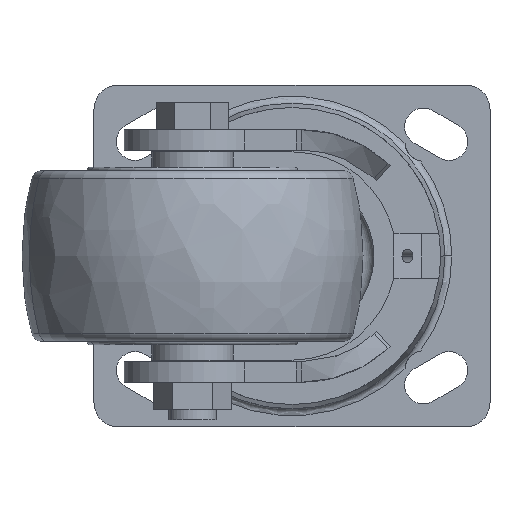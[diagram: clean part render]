
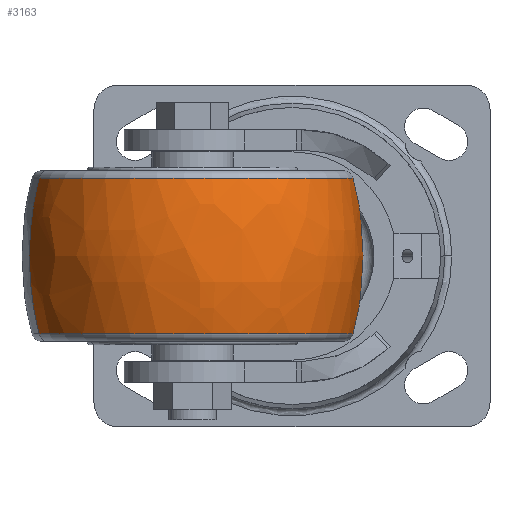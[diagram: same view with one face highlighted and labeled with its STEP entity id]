
A CAD part, front view. The second image highlights one B-rep face of the part: STEP entity #3163.
In plain terms, the highlighted free-form (B-spline) face has degree [3, 3] with [7, 4] control points.
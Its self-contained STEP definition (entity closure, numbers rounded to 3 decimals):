
#2495=CARTESIAN_POINT('',(0.,0.,-22.759));
#2496=DIRECTION('',(0.,0.,-1.));
#2497=DIRECTION('',(1.,0.,0.));
#2498=AXIS2_PLACEMENT_3D('',#2495,#2496,#2497);
#2500=CARTESIAN_POINT('',(40.,0.,0.));
#2501=DIRECTION('',(0.,-1.,0.));
#2502=DIRECTION('',(-0.967,0.,0.253));
#2503=AXIS2_PLACEMENT_3D('',#2500,#2501,#2502);
#2505=CARTESIAN_POINT('',(0.,0.,22.759));
#2506=DIRECTION('',(0.,0.,-1.));
#2507=DIRECTION('',(1.,0.,0.));
#2508=AXIS2_PLACEMENT_3D('',#2505,#2506,#2507);
#2510=CARTESIAN_POINT('',(40.,0.,0.));
#2511=DIRECTION('',(0.,-1.,0.));
#2512=DIRECTION('',(-1.,0.,0.));
#2513=AXIS2_PLACEMENT_3D('',#2510,#2511,#2512);
#2515=CARTESIAN_POINT('',(-40.,0.,0.));
#2516=DIRECTION('',(0.,1.,0.));
#2517=DIRECTION('',(1.,0.,0.));
#2518=AXIS2_PLACEMENT_3D('',#2515,#2516,#2517);
#2520=CARTESIAN_POINT('',(-40.,0.,0.));
#2521=DIRECTION('',(0.,1.,0.));
#2522=DIRECTION('',(0.967,0.,0.253));
#2523=AXIS2_PLACEMENT_3D('',#2520,#2521,#2522);
#2607=CARTESIAN_POINT('',(-47.075,0.,22.759));
#2608=CARTESIAN_POINT('',(47.075,0.,22.759));
#2609=VERTEX_POINT('',#2607);
#2610=VERTEX_POINT('',#2608);
#2615=CARTESIAN_POINT('',(-50.,0.,0.));
#2616=CARTESIAN_POINT('',(-47.075,0.,-22.759));
#2617=VERTEX_POINT('',#2615);
#2618=VERTEX_POINT('',#2616);
#2659=CARTESIAN_POINT('',(50.,0.,0.));
#2660=CARTESIAN_POINT('',(47.075,0.,-22.759));
#2661=VERTEX_POINT('',#2659);
#2662=VERTEX_POINT('',#2660);
#3121=CARTESIAN_POINT('',(-46.745,2.941,
-23.648));
#3122=CARTESIAN_POINT('',(-50.979,3.207,
-8.072));
#3123=CARTESIAN_POINT('',(-50.979,3.207,8.072));
#3124=CARTESIAN_POINT('',(-46.745,2.941,23.648));
#3125=CARTESIAN_POINT('',(-48.555,-25.826,
-23.648));
#3126=CARTESIAN_POINT('',(-52.952,-28.165,
-8.072));
#3127=CARTESIAN_POINT('',(-52.952,-28.165,
8.072));
#3128=CARTESIAN_POINT('',(-48.555,-25.826,
23.648));
#3129=CARTESIAN_POINT('',(-28.824,-46.838,
-23.648));
#3130=CARTESIAN_POINT('',(-31.434,-51.079,
-8.072));
#3131=CARTESIAN_POINT('',(-31.434,-51.079,
8.072));
#3132=CARTESIAN_POINT('',(-28.824,-46.838,
23.648));
#3133=CARTESIAN_POINT('',(0.,-46.838,
-23.648));
#3134=CARTESIAN_POINT('',(0.,-51.079,
-8.072));
#3135=CARTESIAN_POINT('',(0.,-51.079,
8.072));
#3136=CARTESIAN_POINT('',(0.,-46.838,
23.648));
#3137=CARTESIAN_POINT('',(28.824,-46.838,
-23.648));
#3138=CARTESIAN_POINT('',(31.434,-51.079,
-8.072));
#3139=CARTESIAN_POINT('',(31.434,-51.079,8.072));
#3140=CARTESIAN_POINT('',(28.824,-46.838,23.648));
#3141=CARTESIAN_POINT('',(48.555,-25.826,
-23.648));
#3142=CARTESIAN_POINT('',(52.952,-28.165,
-8.072));
#3143=CARTESIAN_POINT('',(52.952,-28.165,8.072));
#3144=CARTESIAN_POINT('',(48.555,-25.826,23.648));
#3145=CARTESIAN_POINT('',(46.745,2.941,-23.648));
#3146=CARTESIAN_POINT('',(50.979,3.207,-8.072));
#3147=CARTESIAN_POINT('',(50.979,3.207,8.072));
#3148=CARTESIAN_POINT('',(46.745,2.941,23.648));
#3149=(BOUNDED_SURFACE()B_SPLINE_SURFACE(3,3,((#3121,#3122,#3123,#3124),(#3125,
#3126,#3127,#3128),(#3129,#3130,#3131,#3132),(#3133,#3134,#3135,#3136),(#3137,
#3138,#3139,#3140),(#3141,#3142,#3143,#3144),(#3145,#3146,#3147,#3148)),
.UNSPECIFIED.,.F.,.F.,.F.)B_SPLINE_SURFACE_WITH_KNOTS((4,3,4),(4,4),(0.,1.,
2.),(0.,1.),.UNSPECIFIED.)GEOMETRIC_REPRESENTATION_ITEM()RATIONAL_B_SPLINE_SURFACE(((1.208,1.18,1.18,1.208),(
0.954,0.932,0.932,0.954),(
0.954,0.932,0.932,0.954),(
1.208,1.18,1.18,1.208),(
0.954,0.932,0.932,0.954),(
0.954,0.932,0.932,0.954),(
1.208,1.18,1.18,1.208)))REPRESENTATION_ITEM('')SURFACE());
#3151=ORIENTED_EDGE('',*,*,#3150,.F.);
#3153=ORIENTED_EDGE('',*,*,#3152,.F.);
#3155=ORIENTED_EDGE('',*,*,#3154,.T.);
#3157=ORIENTED_EDGE('',*,*,#3156,.T.);
#3158=ORIENTED_EDGE('',*,*,#3114,.T.);
#3160=ORIENTED_EDGE('',*,*,#3159,.F.);
#3161=EDGE_LOOP('',(#3151,#3153,#3155,#3157,#3158,#3160));
#3162=FACE_OUTER_BOUND('',#3161,.F.);
#2499=CIRCLE('',#2498,47.075);
#2504=CIRCLE('',#2503,90.);
#2509=CIRCLE('',#2508,47.075);
#2514=CIRCLE('',#2513,90.);
#2519=CIRCLE('',#2518,90.);
#2524=CIRCLE('',#2523,90.);
#3114=EDGE_CURVE('',#2662,#2618,#2499,.T.);
#3150=EDGE_CURVE('',#2609,#2617,#2504,.T.);
#3152=EDGE_CURVE('',#2610,#2609,#2509,.T.);
#3154=EDGE_CURVE('',#2610,#2661,#2524,.T.);
#3156=EDGE_CURVE('',#2661,#2662,#2519,.T.);
#3159=EDGE_CURVE('',#2617,#2618,#2514,.T.);
#3163=ADVANCED_FACE('',(#3162),#3149,.T.);
